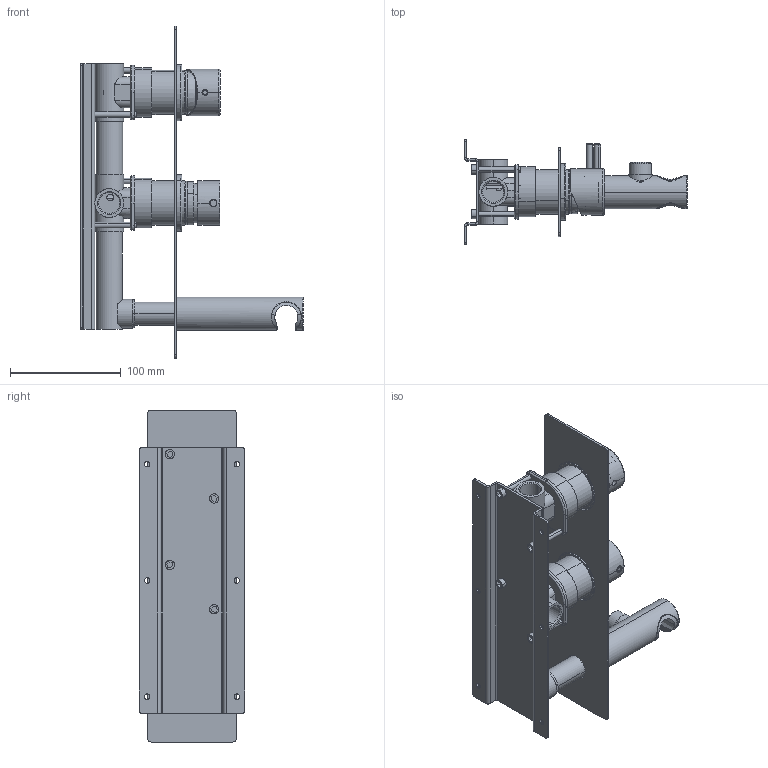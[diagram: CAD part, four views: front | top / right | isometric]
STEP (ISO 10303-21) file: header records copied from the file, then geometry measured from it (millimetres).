
FILE_DESCRIPTION (( 'STEP AP203' ), '1' );
FILE_NAME ('MME80N.STEP', '2024-01-23T16:23:00', ( '' ), ( '' ), 'SwSTEP 2.0', 'SolidWorks 2023', '' );
FILE_SCHEMA (( 'CONFIG_CONTROL_DESIGN' ));
Length unit declared in the file: millimetre
Products named in the file (38): C25.2662.00; C25.0791.00.1; 1174; C12.00.0011; CAPP_0; C25.1173.00.0; ADATTATORE MEZZO; C47.00.0121.0; C24.2086.00.0; C47.00.0015; 1174G; MME80N; C11.14.0009; C12.00.0008; C24.1993.00.0; EU0923_2; C47.00.0023.01; 1000; C24.1966.00.0; TUBO DI GIUNZIONE VASCA E DOCCIA; AS855_00; OR3934262ACS; C23.1878.01; C12.00.0017; EU1173_0; EROGATORE VASCA E DOCCIA; C10.00.0011; C25.1964.00.0; C11.14.0008; C10.00.0015; C11.14.0007; 405-40CPA GEDA; IST80; AS757_00; C24.1965.00.0; VITETC5x40; C24.1992.00.0; EU1995_0
Assembly tree (46 placements, depth 4):
  MME80N
    IST80
      405-40CPA GEDA
        1174G
        EROGATORE VASCA E DOCCIA
        TUBO DI GIUNZIONE VASCA E DOCCIA
        1174
        ADATTATORE MEZZO
      C24.1966.00.0
      C25.1964.00.0
      C24.1965.00.0  x2
      C12.00.0008
      C12.00.0017  x2
      1000  x2
      C47.00.0015  x2
      C10.00.0015
      C10.00.0011
      VITETC5x40  x4
      C24.1993.00.0
      CAPP_0
    AS757_00
      C24.1992.00.0
      C25.1173.00.0
      C23.1878.01
      C11.14.0009
      C11.14.0007
      C47.00.0023.01
    C25.2662.00
    OR3934262ACS  x2
    EU0923_2
    EU1173_0
    EU1995_0  x2
    AS855_00
      C24.2086.00.0
      C47.00.0121.0
      C25.0791.00.1
      C12.00.0011
      C11.14.0008
Bounding box: 201.5 x 95 x 300 mm (x, y, z)
Volume: 446905.9 mm3; surface area: 286167.1 mm2
Topology: 43 solids, 43 shells, 1533 faces, 3598 edges, 2247 vertices
Faces by surface type: plane 603, cylinder 595, cone 201, torus 124, bspline 10
Entity records: 42394 total; most frequent: CARTESIAN_POINT 9462, DIRECTION 6452, ORIENTED_EDGE 5642, EDGE_CURVE 2821, AXIS2_PLACEMENT_3D 2573, VERTEX_POINT 1767, EDGE_LOOP 1404, CIRCLE 1316
